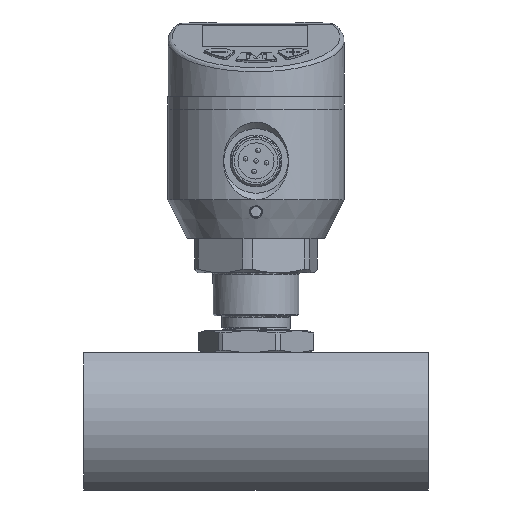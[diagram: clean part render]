
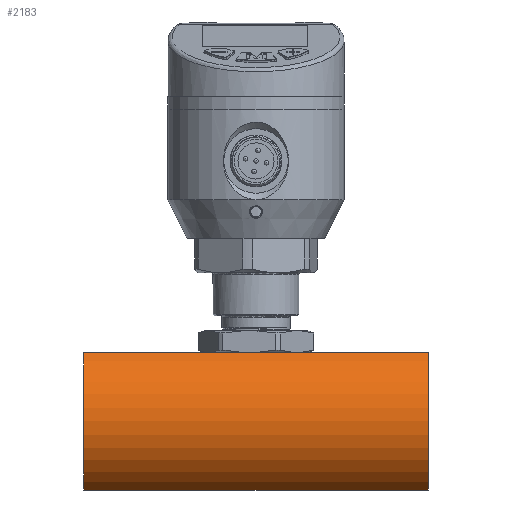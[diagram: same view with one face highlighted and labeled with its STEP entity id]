
A CAD part, left-side view. The second image highlights one B-rep face of the part: STEP entity #2183.
In plain terms, the highlighted cylindrical face has radius 19 mm (diameter 38 mm), a partial arc.
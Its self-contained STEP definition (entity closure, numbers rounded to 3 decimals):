
#1695=CYLINDRICAL_SURFACE('',#8290,19.);
#1834=FACE_OUTER_BOUND('',#3139,.T.);
#2183=ADVANCED_FACE('',(#1834),#1695,.T.);
#3139=EDGE_LOOP('',(#4050,#4051,#4052,#4053));
#3650=CIRCLE('',#8272,19.);
#3656=CIRCLE('',#8280,19.);
#4050=ORIENTED_EDGE('',*,*,#6573,.T.);
#4051=ORIENTED_EDGE('',*,*,#6547,.T.);
#4052=ORIENTED_EDGE('',*,*,#6570,.F.);
#4053=ORIENTED_EDGE('',*,*,#6559,.T.);
#5920=VERTEX_POINT('',#10912);
#5922=VERTEX_POINT('',#10916);
#5934=VERTEX_POINT('',#11462);
#5935=VERTEX_POINT('',#11464);
#6547=EDGE_CURVE('',#5920,#5922,#3650,.T.);
#6559=EDGE_CURVE('',#5935,#5934,#3656,.T.);
#6570=EDGE_CURVE('',#5935,#5922,#7504,.T.);
#6573=EDGE_CURVE('',#5934,#5920,#7507,.T.);
#7504=LINE('',#11497,#7890);
#7507=LINE('',#11501,#7893);
#7890=VECTOR('',#9061,1.);
#7893=VECTOR('',#9066,1.);
#8272=AXIS2_PLACEMENT_3D('',#10917,#9027,#9028);
#8280=AXIS2_PLACEMENT_3D('',#11463,#9045,#9046);
#8290=AXIS2_PLACEMENT_3D('',#11504,#9071,#9072);
#9027=DIRECTION('',(0.,1.,0.));
#9028=DIRECTION('',(-1.,0.,0.));
#9045=DIRECTION('',(0.,-1.,0.));
#9046=DIRECTION('',(-1.,0.,0.));
#9061=DIRECTION('',(0.,-1.,0.));
#9066=DIRECTION('',(0.,-1.,0.));
#9071=DIRECTION('',(0.,-1.,0.));
#9072=DIRECTION('',(-1.,0.,0.));
#10912=CARTESIAN_POINT('',(15.253,-3.6,-126.));
#10916=CARTESIAN_POINT('',(15.253,-3.6,-94.));
#10917=CARTESIAN_POINT('',(25.5,-3.6,-110.));
#11462=CARTESIAN_POINT('',(15.253,76.4,-126.));
#11463=CARTESIAN_POINT('',(25.5,76.4,-110.));
#11464=CARTESIAN_POINT('',(15.253,76.4,-94.));
#11497=CARTESIAN_POINT('',(15.253,80.4,-94.));
#11501=CARTESIAN_POINT('',(15.253,80.4,-126.));
#11504=CARTESIAN_POINT('',(25.5,80.4,-110.));
